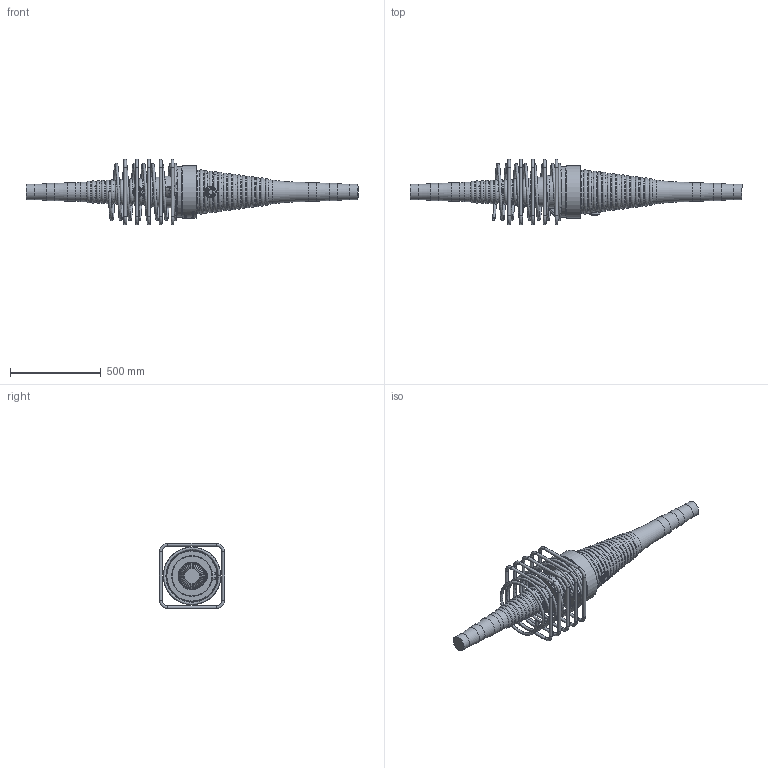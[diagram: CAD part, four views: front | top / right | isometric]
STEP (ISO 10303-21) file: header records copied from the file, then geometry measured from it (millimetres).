
FILE_DESCRIPTION(/* description */ (''),/* implementation_level */ '2;1');
FILE_NAME(/* name */ '8BBR VT CONA CMI BT 1506_Coupler K Assembly_CS-34,28.stp',/* time_stamp */ '2025-05-14T10:58:19+02:00',/* author */ ('tk'),/* organization */ (''),/* preprocessor_version */ 'ST-DEVELOPER v20',/* originating_system */ 'Autodesk Inventor 2024',/* authorisation */ '');
FILE_SCHEMA (('AUTOMOTIVE_DESIGN { 1 0 10303 214 3 1 1 }'));
Products named in the file (1): 8BBR VT CONA CMI BT 1506_Coupler K Assembly_CS-34,28
Bounding box: 1825.13 x 360 x 360 mm (x, y, z)
Volume: 36760587.1 mm3; surface area: 1662164.8 mm2
Topology: 7 solids, 8 shells, 979 faces, 2607 edges, 1695 vertices
Faces by surface type: bspline 431, plane 269, torus 129, cylinder 106, cone 34, sphere 10
Full cylindrical faces by diameter (mm): 16 x20, 34 x2, 57 x2, 84 x2, 94 x2, 104 x2, 164 x1, 218 x1, 223.017 x1, 273 x1, 280 x1, 286 x1, 290 x1
Entity records: 45576 total; most frequent: CARTESIAN_POINT 23126, ORIENTED_EDGE 5194, DIRECTION 3595, EDGE_CURVE 2597, VERTEX_POINT 1695, AXIS2_PLACEMENT_3D 1326, EDGE_LOOP 1052, FACE_OUTER_BOUND 979
